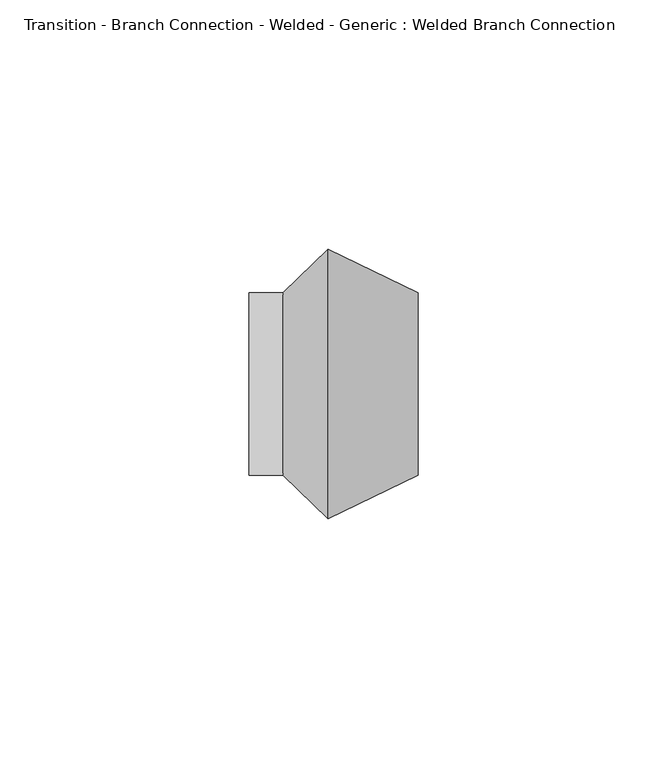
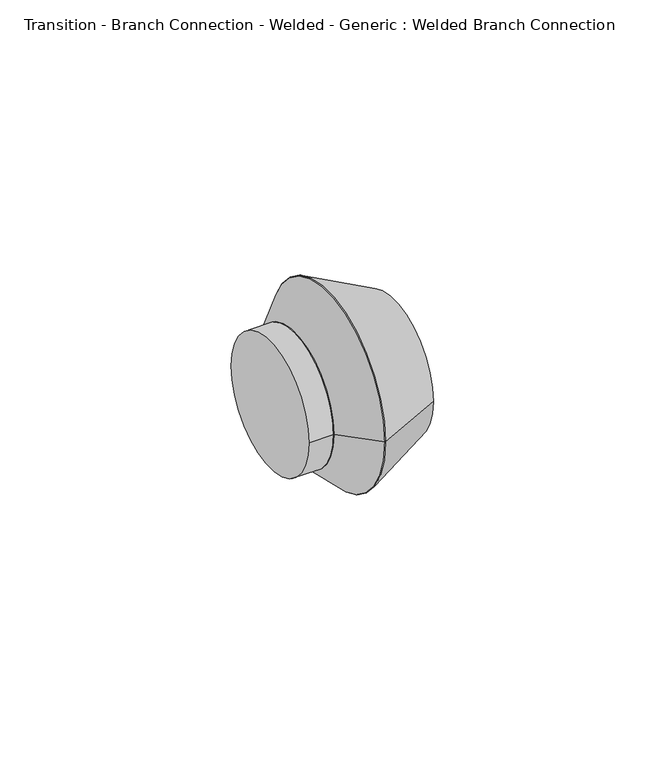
"""IFC4 building model written with IfcOpenShell, lengths in millimetres: pipe fitting geometry, Transition - Branch Connection - Welded - Generic : Welded Branch Connection."""

from ifc_helpers import new_model, si_unit, point, frame, origin, origin_2d, place, context, project, spatial, polyline, circle_curve, trimmed, segment, composite_curve, outline, extrude, source, transform, mapped, element, save
from ifc_brep_helpers import plane_surface, revolved_surface, advanced_brep


def transition_branch_connection_welded_generic_welded_branch_5ac5b421(model_context):
    return source(origin(), model_context, "Body", "SolidModel", [
        advanced_brep(
        [(8.9958333, -26.9875, 0.0), (8.9958333, 26.9875, 0.0), (26.9875, -18.25625, 0.0), (26.9875, 18.25625, 0.0)],
        [
            (0, 1, circle_curve(frame((8.9958333, 0.0, 0.0), z_axis=(-1.0, 0.0, 0.0), x_axis=(0.0, -1.0, 0.0)), 26.9875)),
            (1, 0, circle_curve(frame((8.9958333, 0.0, 0.0), z_axis=(-1.0, 0.0, 0.0), x_axis=(0.0, 1.0, 0.0)), 26.9875)),
            (2, 3, circle_curve(frame((26.9875, 0.0, 0.0), z_axis=(1.0, 0.0, 0.0), x_axis=(0.0, 1.0, 0.0)), 18.25625)),
            (3, 2, circle_curve(frame((26.9875, 0.0, 0.0), z_axis=(1.0, 0.0, 0.0), x_axis=(0.0, -1.0, 0.0)), 18.25625)),
            (2, 0),
            (1, 3),
        ],
        [
            plane_surface(frame((8.9958333, 0.0, 0.0), z_axis=(-1.0, 0.0, 0.0), x_axis=(0.0, 0.0, -1.0))),
            plane_surface(frame((26.9875, 0.0, 0.0), z_axis=(1.0, 0.0, 0.0), x_axis=(0.0, 0.0, -1.0))),
            revolved_surface(polyline([(26.987499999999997, -18.25624999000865, 0.0), (8.995833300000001, -26.9875, 0.0)]), (64.6064394, 0.0, 0.0), (-1.0, 0.0, 0.0)),
            revolved_surface(polyline([(26.987499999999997, 18.25624999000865, 0.0), (8.995833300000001, 26.9875, 0.0)]), (64.6064394, 0.0, 0.0), (-1.0, 0.0, 0.0)),
        ],
        [
            (0, [[1, 2]]),
            (1, [[3, 4]]),
            (2, [[-3, 5, -2, 6]]),
            (3, [[-4, -6, -1, -5]]),
        ],
    ),
        advanced_brep(
        [(8.9958333, -26.9875, 0.0), (8.9958333, 26.9875, 0.0), (0.0, -18.25625, 0.0), (0.0, 18.25625, 0.0)],
        [
            (0, 1, circle_curve(frame((8.9958333, 0.0, 0.0), z_axis=(1.0, 0.0, 0.0), x_axis=(0.0, -1.0, 0.0)), 26.9875)),
            (1, 0, circle_curve(frame((8.9958333, 0.0, 0.0), z_axis=(1.0, 0.0, 0.0), x_axis=(0.0, 1.0, 0.0)), 26.9875)),
            (2, 3, circle_curve(frame((0.0, 0.0, 0.0), z_axis=(-1.0, 0.0, 0.0), x_axis=(0.0, 1.0, 0.0)), 18.25625)),
            (3, 2, circle_curve(frame((0.0, 0.0, 0.0), z_axis=(-1.0, 0.0, 0.0), x_axis=(0.0, -1.0, 0.0)), 18.25625)),
            (3, 1),
            (0, 2),
        ],
        [
            plane_surface(frame((8.9958333, 0.0, 0.0), z_axis=(1.0, 0.0, 0.0), x_axis=(0.0, 0.0, -1.0))),
            plane_surface(frame((0.0, 0.0, 0.0), z_axis=(-1.0, 0.0, 0.0), x_axis=(0.0, 0.0, -1.0))),
            revolved_surface(polyline([(0.0, 18.25625002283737, 0.0), (8.995833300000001, 26.9875, 0.0)]), (-18.8094697, 0.0, 0.0), (1.0, 0.0, 0.0)),
            revolved_surface(polyline([(0.0, -18.25625002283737, 0.0), (8.995833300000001, -26.9875, 0.0)]), (-18.8094697, 0.0, 0.0), (1.0, 0.0, 0.0)),
        ],
        [
            (0, [[1, 2]]),
            (1, [[3, 4]]),
            (2, [[-4, 5, -1, 6]]),
            (3, [[-3, -6, -2, -5]]),
        ],
    ),
        extrude(outline(composite_curve([segment(trimmed(circle_curve(origin_2d(), 18.25625), [point((-18.25625, 0.0))], [point((18.25625, 0.0))], False, "CARTESIAN"), True, "CONTINUOUS"), segment(trimmed(circle_curve(origin_2d(), 18.25625), [point((18.25625, 0.0))], [point((-18.25625, 0.0))], False, "CARTESIAN"), True, "CONTINUOUS")], self_intersect=False)), frame((-6.8364251, 0.0, 0.0), z_axis=(1.0, 0.0, 0.0), x_axis=(0.0, 1.0, 0.0)), (0.0, 0.0, 1.0), 6.8364251),
    ])


if __name__ == "__main__":
    model = new_model("IFC4")
    model_context = context("Model", 3, world=origin())
    ifc_project = project(units=[si_unit("LENGTHUNIT", "METRE", prefix="MILLI")], contexts=[model_context])
    site = spatial("IfcSite", under=ifc_project)
    building = spatial("IfcBuilding", under=site)
    placement = place(None, origin())
    transition_branch_connection_welded_generic_welded_branch_shape = transition_branch_connection_welded_generic_welded_branch_5ac5b421(model_context)
    element("IfcPipeFitting", 1, ObjectType="Transition - Branch Connection - Welded - Generic : Welded Branch Connection", at=placement, inside=building, context=model_context, shape_type="MappedRepresentation", body=[
        mapped(transition_branch_connection_welded_generic_welded_branch_shape, transform((0.0, 0.0, 0.0), x_axis=(1.0, 0.0, 0.0), y_axis=(0.0, 1.0, 0.0), z_axis=(0.0, 0.0, 1.0))),
    ])
    save(model, "model.ifc")
